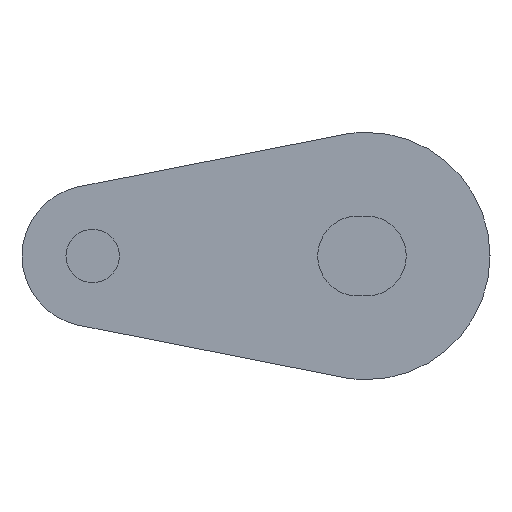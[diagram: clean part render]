
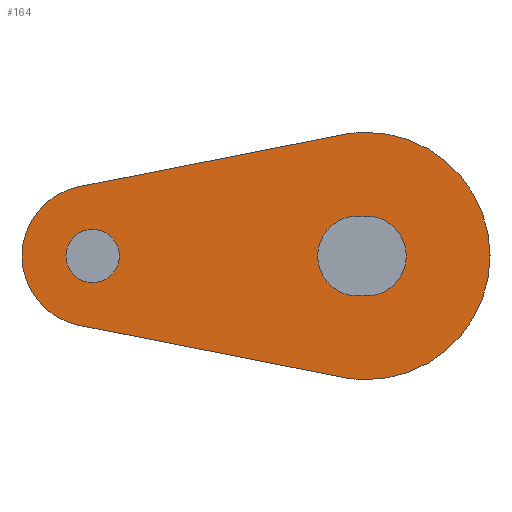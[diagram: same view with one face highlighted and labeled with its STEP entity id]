
A CAD part, left-side view. The second image highlights one B-rep face of the part: STEP entity #164.
In plain terms, the highlighted planar face has unit normal (-1, 0, 0).
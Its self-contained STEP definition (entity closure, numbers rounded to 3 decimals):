
#7 = EDGE_CURVE ( 'NONE', #591, #598, #311, .T. ) ;
#28 = EDGE_CURVE ( 'NONE', #626, #685, #305, .T. ) ;
#30 = AXIS2_PLACEMENT_3D ( 'NONE', #793, #778, #779 ) ;
#44 = AXIS2_PLACEMENT_3D ( 'NONE', #639, #736, #737 ) ;
#66 = AXIS2_PLACEMENT_3D ( 'NONE', #650, #652, #653 ) ;
#68 = AXIS2_PLACEMENT_3D ( 'NONE', #657, #659, #660 ) ;
#75 = EDGE_CURVE ( 'NONE', #701, #700, #288, .T. ) ;
#86 = EDGE_CURVE ( 'NONE', #596, #597, #277, .T. ) ;
#88 = EDGE_CURVE ( 'NONE', #718, #699, #274, .T. ) ;
#102 = EDGE_CURVE ( 'NONE', #685, #626, #258, .T. ) ;
#106 = EDGE_CURVE ( 'NONE', #597, #591, #256, .T. ) ;
#107 = EDGE_CURVE ( 'NONE', #582, #595, #250, .T. ) ;
#110 = AXIS2_PLACEMENT_3D ( 'NONE', #838, #832, #833 ) ;
#111 = EDGE_CURVE ( 'NONE', #598, #596, #249, .T. ) ;
#115 = EDGE_CURVE ( 'NONE', #700, #582, #240, .T. ) ;
#122 = AXIS2_PLACEMENT_3D ( 'NONE', #592, #577, #612 ) ;
#124 = AXIS2_PLACEMENT_3D ( 'NONE', #687, #698, #697 ) ;
#126 = EDGE_CURVE ( 'NONE', #699, #701, #228, .T. ) ;
#140 = AXIS2_PLACEMENT_3D ( 'NONE', #706, #712, #707 ) ;
#147 = AXIS2_PLACEMENT_3D ( 'NONE', #730, #733, #734 ) ;
#159 = EDGE_CURVE ( 'NONE', #595, #718, #211, .T. ) ;
#164 = ADVANCED_FACE ( 'NONE', ( #199, #198, #192 ), #777, .T. ) ;
#192 = FACE_OUTER_BOUND ( 'NONE', #351, .T. ) ;
#198 = FACE_BOUND ( 'NONE', #340, .T. ) ;
#199 = FACE_BOUND ( 'NONE', #454, .T. ) ;
#205 = VECTOR ( 'NONE', #782, 1000. ) ;
#211 = LINE ( 'NONE', #794, #205 ) ;
#228 = LINE ( 'NONE', #821, #232 ) ;
#232 = VECTOR ( 'NONE', #814, 1000. ) ;
#240 = CIRCLE ( 'NONE', #110, 7. ) ;
#247 = VECTOR ( 'NONE', #725, 1000. ) ;
#249 = LINE ( 'NONE', #732, #247 ) ;
#250 = CIRCLE ( 'NONE', #147, 7. ) ;
#253 = VECTOR ( 'NONE', #731, 1000. ) ;
#256 = LINE ( 'NONE', #728, #253 ) ;
#258 = CIRCLE ( 'NONE', #44, 1.51 ) ;
#274 = CIRCLE ( 'NONE', #66, 4. ) ;
#277 = CIRCLE ( 'NONE', #68, 2.26 ) ;
#288 = CIRCLE ( 'NONE', #140, 7. ) ;
#305 = CIRCLE ( 'NONE', #124, 1.51 ) ;
#311 = CIRCLE ( 'NONE', #122, 2.26 ) ;
#340 = EDGE_LOOP ( 'NONE', ( #394, #456 ) ) ;
#351 = EDGE_LOOP ( 'NONE', ( #468, #467, #455, #486, #497, #373 ) ) ;
#373 = ORIENTED_EDGE ( 'NONE', *, *, #126, .F. ) ;
#394 = ORIENTED_EDGE ( 'NONE', *, *, #102, .T. ) ;
#395 = ORIENTED_EDGE ( 'NONE', *, *, #111, .T. ) ;
#454 = EDGE_LOOP ( 'NONE', ( #459, #460, #511, #395 ) ) ;
#455 = ORIENTED_EDGE ( 'NONE', *, *, #107, .F. ) ;
#456 = ORIENTED_EDGE ( 'NONE', *, *, #28, .T. ) ;
#459 = ORIENTED_EDGE ( 'NONE', *, *, #86, .T. ) ;
#460 = ORIENTED_EDGE ( 'NONE', *, *, #106, .T. ) ;
#467 = ORIENTED_EDGE ( 'NONE', *, *, #159, .F. ) ;
#468 = ORIENTED_EDGE ( 'NONE', *, *, #88, .F. ) ;
#486 = ORIENTED_EDGE ( 'NONE', *, *, #115, .F. ) ;
#497 = ORIENTED_EDGE ( 'NONE', *, *, #75, .F. ) ;
#511 = ORIENTED_EDGE ( 'NONE', *, *, #7, .T. ) ;
#577 = DIRECTION ( 'NONE',  ( 1., 0., 0. ) ) ;
#582 = VERTEX_POINT ( 'NONE', #921 ) ;
#591 = VERTEX_POINT ( 'NONE', #919 ) ;
#592 = CARTESIAN_POINT ( 'NONE',  ( -179.5, 0., 0. ) ) ;
#595 = VERTEX_POINT ( 'NONE', #910 ) ;
#596 = VERTEX_POINT ( 'NONE', #911 ) ;
#597 = VERTEX_POINT ( 'NONE', #912 ) ;
#598 = VERTEX_POINT ( 'NONE', #913 ) ;
#612 = DIRECTION ( 'NONE',  ( 0., 0., -1. ) ) ;
#626 = VERTEX_POINT ( 'NONE', #891 ) ;
#639 = CARTESIAN_POINT ( 'NONE',  ( -179.5, 15.5, 0. ) ) ;
#650 = CARTESIAN_POINT ( 'NONE',  ( -179.5, 15.5, 0. ) ) ;
#652 = DIRECTION ( 'NONE',  ( 1., 0., 0. ) ) ;
#653 = DIRECTION ( 'NONE',  ( 0., 0., -1. ) ) ;
#657 = CARTESIAN_POINT ( 'NONE',  ( -179.5, 0.5, 0. ) ) ;
#659 = DIRECTION ( 'NONE',  ( 1., 0., 0. ) ) ;
#660 = DIRECTION ( 'NONE',  ( 0., 0., -1. ) ) ;
#685 = VERTEX_POINT ( 'NONE', #1024 ) ;
#687 = CARTESIAN_POINT ( 'NONE',  ( -179.5, 15.5, 0. ) ) ;
#697 = DIRECTION ( 'NONE',  ( 0., 0., -1. ) ) ;
#698 = DIRECTION ( 'NONE',  ( 1., 0., 0. ) ) ;
#699 = VERTEX_POINT ( 'NONE', #1030 ) ;
#700 = VERTEX_POINT ( 'NONE', #1012 ) ;
#701 = VERTEX_POINT ( 'NONE', #1013 ) ;
#706 = CARTESIAN_POINT ( 'NONE',  ( -179.5, 0., 0. ) ) ;
#707 = DIRECTION ( 'NONE',  ( 0., 0., -1. ) ) ;
#712 = DIRECTION ( 'NONE',  ( 1., 0., 0. ) ) ;
#718 = VERTEX_POINT ( 'NONE', #1018 ) ;
#725 = DIRECTION ( 'NONE',  ( 0., 1., 0. ) ) ;
#728 = CARTESIAN_POINT ( 'NONE',  ( -179.5, 0.5, 2.26 ) ) ;
#730 = CARTESIAN_POINT ( 'NONE',  ( -179.5, 0., 0. ) ) ;
#731 = DIRECTION ( 'NONE',  ( 0., -1., 0. ) ) ;
#732 = CARTESIAN_POINT ( 'NONE',  ( -179.5, 0.5, -2.26 ) ) ;
#733 = DIRECTION ( 'NONE',  ( 1., 0., 0. ) ) ;
#734 = DIRECTION ( 'NONE',  ( 0., 0., -1. ) ) ;
#736 = DIRECTION ( 'NONE',  ( 1., 0., 0. ) ) ;
#737 = DIRECTION ( 'NONE',  ( 0., 0., -1. ) ) ;
#777 = PLANE ( 'NONE',  #30 ) ;
#778 = DIRECTION ( 'NONE',  ( -1., 0., 0. ) ) ;
#779 = DIRECTION ( 'NONE',  ( 0., 0., -1. ) ) ;
#782 = DIRECTION ( 'NONE',  ( 0., 0.981, 0.194 ) ) ;
#793 = CARTESIAN_POINT ( 'NONE',  ( -179.5, 15.5, 0. ) ) ;
#794 = CARTESIAN_POINT ( 'NONE',  ( -179.5, 1.355, -6.868 ) ) ;
#814 = DIRECTION ( 'NONE',  ( 0., -0.981, 0.194 ) ) ;
#821 = CARTESIAN_POINT ( 'NONE',  ( -179.5, 16.274, 3.924 ) ) ;
#832 = DIRECTION ( 'NONE',  ( 1., 0., 0. ) ) ;
#833 = DIRECTION ( 'NONE',  ( 0., 0., -1. ) ) ;
#838 = CARTESIAN_POINT ( 'NONE',  ( -179.5, 0., 0. ) ) ;
#891 = CARTESIAN_POINT ( 'NONE',  ( -179.5, 15.5, 1.51 ) ) ;
#910 = CARTESIAN_POINT ( 'NONE',  ( -179.5, 1.355, -6.868 ) ) ;
#911 = CARTESIAN_POINT ( 'NONE',  ( -179.5, 0.5, -2.26 ) ) ;
#912 = CARTESIAN_POINT ( 'NONE',  ( -179.5, 0.5, 2.26 ) ) ;
#913 = CARTESIAN_POINT ( 'NONE',  ( -179.5, 0., -2.26 ) ) ;
#919 = CARTESIAN_POINT ( 'NONE',  ( -179.5, 0., 2.26 ) ) ;
#921 = CARTESIAN_POINT ( 'NONE',  ( -179.5, 0., -7. ) ) ;
#1012 = CARTESIAN_POINT ( 'NONE',  ( -179.5, 0., 7. ) ) ;
#1013 = CARTESIAN_POINT ( 'NONE',  ( -179.5, 1.355, 6.868 ) ) ;
#1018 = CARTESIAN_POINT ( 'NONE',  ( -179.5, 16.274, -3.924 ) ) ;
#1024 = CARTESIAN_POINT ( 'NONE',  ( -179.5, 15.5, -1.51 ) ) ;
#1030 = CARTESIAN_POINT ( 'NONE',  ( -179.5, 16.274, 3.924 ) ) ;
